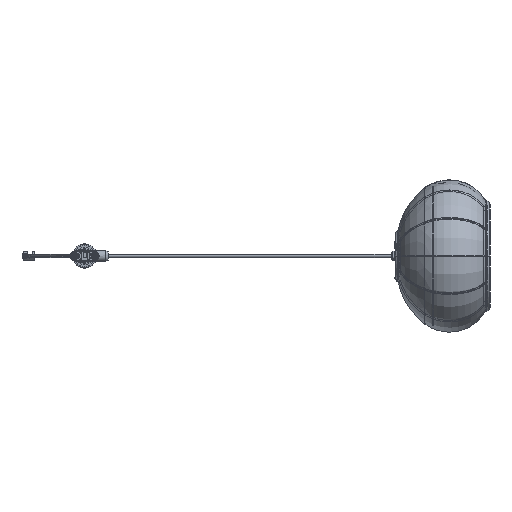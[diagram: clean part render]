
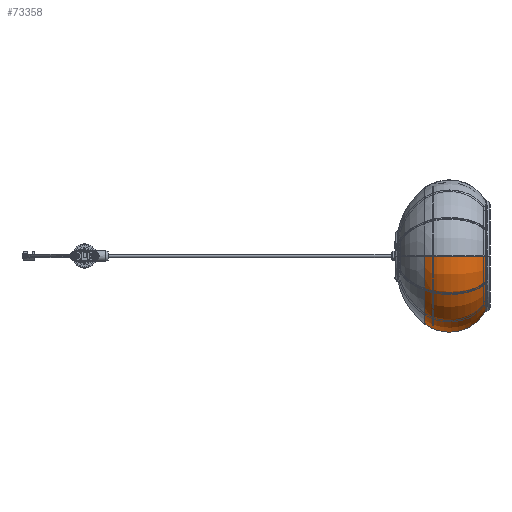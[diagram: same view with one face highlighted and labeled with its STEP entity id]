
A CAD part, left-side view. The second image highlights one B-rep face of the part: STEP entity #73358.
In plain terms, the highlighted toroidal (fillet/blend) face has major radius 60.207 mm and minor radius 72.072 mm.
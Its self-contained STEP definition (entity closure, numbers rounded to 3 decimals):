
#189 = TOROIDAL_SURFACE ( 'NONE', #57560, 60.207, 72.072 ) ;
#3140 = DIRECTION ( 'NONE',  ( 1., 0., 0. ) ) ;
#4285 = VERTEX_POINT ( 'NONE', #57402 ) ;
#4409 = EDGE_CURVE ( 'NONE', #45281, #4285, #30720, .T. ) ;
#5147 = DIRECTION ( 'NONE',  ( 0., -1., 0. ) ) ;
#5680 = CARTESIAN_POINT ( 'NONE',  ( 0., 108.496, 118.419 ) ) ;
#6977 = ORIENTED_EDGE ( 'NONE', *, *, #29897, .F. ) ;
#8848 = CIRCLE ( 'NONE', #10059, 118.419 ) ;
#9799 = DIRECTION ( 'NONE',  ( -1., 0., 0. ) ) ;
#10059 = AXIS2_PLACEMENT_3D ( 'NONE', #57110, #5147, #45385 ) ;
#10559 = AXIS2_PLACEMENT_3D ( 'NONE', #22274, #9799, #39478 ) ;
#11341 = ORIENTED_EDGE ( 'NONE', *, *, #62057, .T. ) ;
#14508 = AXIS2_PLACEMENT_3D ( 'NONE', #32804, #3140, #74586 ) ;
#19255 = CIRCLE ( 'NONE', #10559, 72.072 ) ;
#21243 = DIRECTION ( 'NONE',  ( 0., 0., -1. ) ) ;
#22274 = CARTESIAN_POINT ( 'NONE',  ( 0., 66.001, -60.207 ) ) ;
#24065 = EDGE_CURVE ( 'NONE', #39852, #32975, #19255, .T. ) ;
#26382 = CARTESIAN_POINT ( 'NONE',  ( 0., 3.155, 0. ) ) ;
#27423 = CIRCLE ( 'NONE', #39875, 95.489 ) ;
#27871 = FACE_OUTER_BOUND ( 'NONE', #61672, .T. ) ;
#29119 = CARTESIAN_POINT ( 'NONE',  ( 0., 3.155, -95.489 ) ) ;
#29897 = EDGE_CURVE ( 'NONE', #32975, #4285, #27423, .T. ) ;
#30720 = CIRCLE ( 'NONE', #14508, 72.072 ) ;
#32804 = CARTESIAN_POINT ( 'NONE',  ( 0., 66.001, 60.207 ) ) ;
#32975 = VERTEX_POINT ( 'NONE', #29119 ) ;
#35513 = CARTESIAN_POINT ( 'NONE',  ( 0., 108.496, -118.419 ) ) ;
#39478 = DIRECTION ( 'NONE',  ( 0., 0., 1. ) ) ;
#39852 = VERTEX_POINT ( 'NONE', #35513 ) ;
#39875 = AXIS2_PLACEMENT_3D ( 'NONE', #26382, #74434, #50230 ) ;
#45281 = VERTEX_POINT ( 'NONE', #5680 ) ;
#45385 = DIRECTION ( 'NONE',  ( 0., 0., -1. ) ) ;
#50230 = DIRECTION ( 'NONE',  ( 0., 0., -1. ) ) ;
#51718 = DIRECTION ( 'NONE',  ( 0., -1., 0. ) ) ;
#53557 = ORIENTED_EDGE ( 'NONE', *, *, #24065, .F. ) ;
#57077 = ORIENTED_EDGE ( 'NONE', *, *, #4409, .T. ) ;
#57110 = CARTESIAN_POINT ( 'NONE',  ( 0., 108.496, 0. ) ) ;
#57402 = CARTESIAN_POINT ( 'NONE',  ( 0., 3.155, 95.489 ) ) ;
#57560 = AXIS2_PLACEMENT_3D ( 'NONE', #69307, #51718, #21243 ) ;
#61672 = EDGE_LOOP ( 'NONE', ( #11341, #57077, #6977, #53557 ) ) ;
#62057 = EDGE_CURVE ( 'NONE', #39852, #45281, #8848, .T. ) ;
#69307 = CARTESIAN_POINT ( 'NONE',  ( 0., 66.001, 0. ) ) ;
#73358 = ADVANCED_FACE ( 'NONE', ( #27871 ), #189, .T. ) ;
#74434 = DIRECTION ( 'NONE',  ( 0., -1., 0. ) ) ;
#74586 = DIRECTION ( 'NONE',  ( 0., 0., -1. ) ) ;
